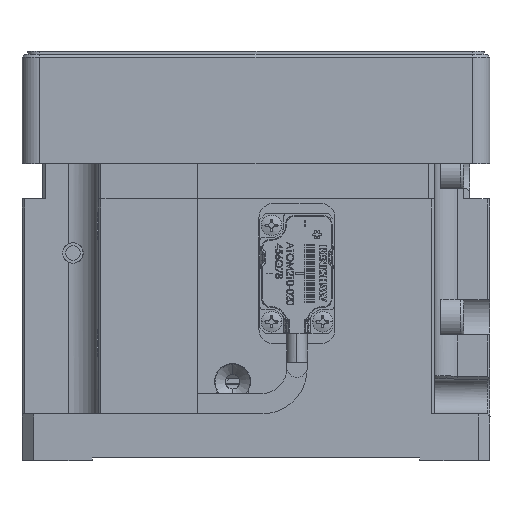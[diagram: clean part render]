
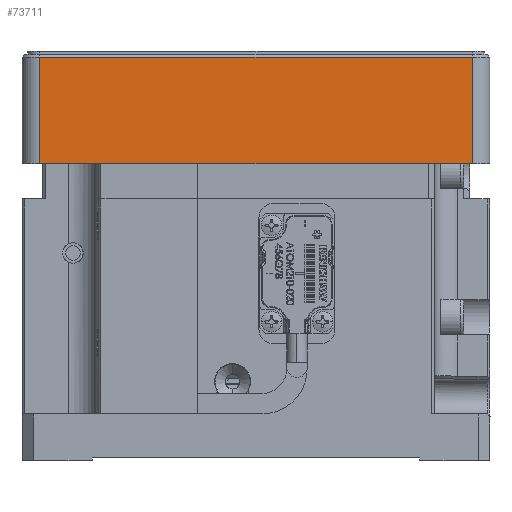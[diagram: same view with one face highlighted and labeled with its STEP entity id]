
A CAD part, left-side view. The second image highlights one B-rep face of the part: STEP entity #73711.
In plain terms, the highlighted planar face has unit normal (-1, 0, 0).
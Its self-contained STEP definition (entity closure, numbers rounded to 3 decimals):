
#1886 = ORIENTED_EDGE ( 'NONE', *, *, #27241, .T. ) ;
#2035 = VERTEX_POINT ( 'NONE', #65469 ) ;
#4582 = EDGE_CURVE ( 'NONE', #23410, #62320, #9901, .T. ) ;
#6261 = VECTOR ( 'NONE', #24758, 1000. ) ;
#6877 = VERTEX_POINT ( 'NONE', #37200 ) ;
#6931 = DIRECTION ( 'NONE',  ( -1., 0., 0. ) ) ;
#9319 = CARTESIAN_POINT ( 'NONE',  ( -40., -37., 61. ) ) ;
#9901 = LINE ( 'NONE', #44063, #41771 ) ;
#10942 = LINE ( 'NONE', #31093, #52461 ) ;
#11374 = DIRECTION ( 'NONE',  ( 0., -1., 0. ) ) ;
#13941 = CARTESIAN_POINT ( 'NONE',  ( -40., 37., 42.75 ) ) ;
#20308 = ORIENTED_EDGE ( 'NONE', *, *, #82580, .T. ) ;
#21099 = AXIS2_PLACEMENT_3D ( 'NONE', #66945, #6931, #60358 ) ;
#22221 = FACE_OUTER_BOUND ( 'NONE', #59643, .T. ) ;
#23410 = VERTEX_POINT ( 'NONE', #9319 ) ;
#24350 = DIRECTION ( 'NONE',  ( 0., 1., 0. ) ) ;
#24758 = DIRECTION ( 'NONE',  ( 0., 0., 1. ) ) ;
#25245 = ORIENTED_EDGE ( 'NONE', *, *, #38419, .T. ) ;
#27241 = EDGE_CURVE ( 'NONE', #2035, #6877, #10942, .T. ) ;
#31093 = CARTESIAN_POINT ( 'NONE',  ( -40., 0., 42.75 ) ) ;
#37200 = CARTESIAN_POINT ( 'NONE',  ( -40., -37., 42.75 ) ) ;
#38419 = EDGE_CURVE ( 'NONE', #6877, #23410, #64635, .T. ) ;
#41771 = VECTOR ( 'NONE', #24350, 1000. ) ;
#44063 = CARTESIAN_POINT ( 'NONE',  ( -40., 40., 61. ) ) ;
#46111 = CARTESIAN_POINT ( 'NONE',  ( -40., 37., 61. ) ) ;
#48947 = PLANE ( 'NONE',  #21099 ) ;
#52461 = VECTOR ( 'NONE', #11374, 1000. ) ;
#59527 = LINE ( 'NONE', #13941, #79178 ) ;
#59643 = EDGE_LOOP ( 'NONE', ( #25245, #82211, #20308, #1886 ) ) ;
#60358 = DIRECTION ( 'NONE',  ( 0., 0., 1. ) ) ;
#62320 = VERTEX_POINT ( 'NONE', #46111 ) ;
#64635 = LINE ( 'NONE', #69900, #6261 ) ;
#65469 = CARTESIAN_POINT ( 'NONE',  ( -40., 37., 42.75 ) ) ;
#66945 = CARTESIAN_POINT ( 'NONE',  ( -40., 40., 42.75 ) ) ;
#67377 = DIRECTION ( 'NONE',  ( 0., 0., -1. ) ) ;
#69900 = CARTESIAN_POINT ( 'NONE',  ( -40., -37., 42.75 ) ) ;
#73711 = ADVANCED_FACE ( 'NONE', ( #22221 ), #48947, .T. ) ;
#79178 = VECTOR ( 'NONE', #67377, 1000. ) ;
#82211 = ORIENTED_EDGE ( 'NONE', *, *, #4582, .T. ) ;
#82580 = EDGE_CURVE ( 'NONE', #62320, #2035, #59527, .T. ) ;
